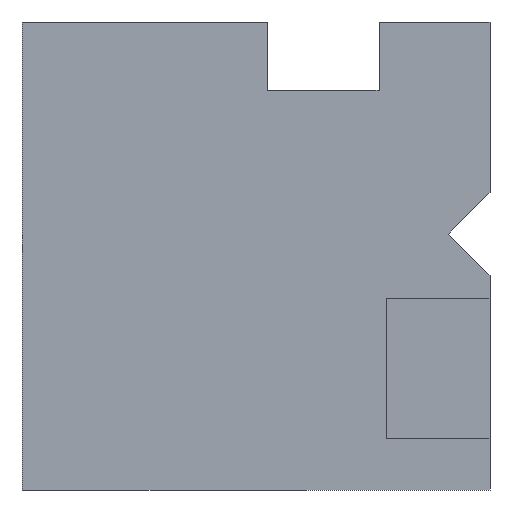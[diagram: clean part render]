
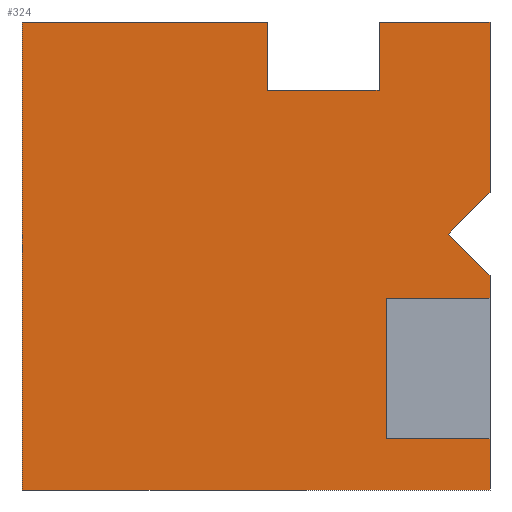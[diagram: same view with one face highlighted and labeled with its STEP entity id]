
A CAD part, left-side view. The second image highlights one B-rep face of the part: STEP entity #324.
In plain terms, the highlighted planar face has unit normal (-1, 0, 0).
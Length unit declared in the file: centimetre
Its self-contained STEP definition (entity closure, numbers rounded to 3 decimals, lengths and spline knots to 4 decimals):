
#5 = EDGE_CURVE ( 'NONE', #864, #48, #114, .T. ) ;
#26 = DIRECTION ( 'NONE',  ( 0., 0., -1. ) ) ;
#28 = EDGE_CURVE ( 'NONE', #608, #840, #179, .T. ) ;
#30 = VERTEX_POINT ( 'NONE', #670 ) ;
#31 = ORIENTED_EDGE ( 'NONE', *, *, #33, .F. ) ;
#33 = EDGE_CURVE ( 'NONE', #231, #445, #533, .T. ) ;
#40 = EDGE_CURVE ( 'NONE', #396, #225, #386, .T. ) ;
#45 = DIRECTION ( 'NONE',  ( 0., -1., 0. ) ) ;
#47 = EDGE_CURVE ( 'NONE', #118, #225, #307, .T. ) ;
#48 = VERTEX_POINT ( 'NONE', #660 ) ;
#55 = CARTESIAN_POINT ( 'NONE',  ( 0., 237.1589, 854.4618 ) ) ;
#57 = LINE ( 'NONE', #813, #618 ) ;
#74 = PLANE ( 'NONE',  #363 ) ;
#98 = ORIENTED_EDGE ( 'NONE', *, *, #468, .F. ) ;
#104 = CARTESIAN_POINT ( 'NONE',  ( 0., 475.2386, 854.4618 ) ) ;
#111 = ORIENTED_EDGE ( 'NONE', *, *, #833, .F. ) ;
#114 = LINE ( 'NONE', #599, #695 ) ;
#118 = VERTEX_POINT ( 'NONE', #194 ) ;
#129 = VECTOR ( 'NONE', #441, 100. ) ;
#131 = VECTOR ( 'NONE', #353, 100. ) ;
#135 = CARTESIAN_POINT ( 'NONE',  ( 0., 1000., 0. ) ) ;
#141 = CARTESIAN_POINT ( 'NONE',  ( 0., 0., 458.2742 ) ) ;
#142 = EDGE_CURVE ( 'NONE', #539, #48, #57, .T. ) ;
#145 = ORIENTED_EDGE ( 'NONE', *, *, #47, .T. ) ;
#164 = CARTESIAN_POINT ( 'NONE',  ( 0., 0., 1000. ) ) ;
#165 = LINE ( 'NONE', #779, #503 ) ;
#179 = LINE ( 'NONE', #443, #836 ) ;
#188 = CARTESIAN_POINT ( 'NONE',  ( 0., 0., 109.3846 ) ) ;
#194 = CARTESIAN_POINT ( 'NONE',  ( 0., 475.2386, 854.4618 ) ) ;
#225 = VERTEX_POINT ( 'NONE', #276 ) ;
#231 = VERTEX_POINT ( 'NONE', #877 ) ;
#241 = CARTESIAN_POINT ( 'NONE',  ( 0., 0., 1000. ) ) ;
#271 = VECTOR ( 'NONE', #623, 100. ) ;
#274 = EDGE_CURVE ( 'NONE', #360, #30, #343, .T. ) ;
#276 = CARTESIAN_POINT ( 'NONE',  ( 0., 475.2386, 1000. ) ) ;
#277 = VECTOR ( 'NONE', #759, 100. ) ;
#284 = CARTESIAN_POINT ( 'NONE',  ( 0., 0., 458.2742 ) ) ;
#294 = CARTESIAN_POINT ( 'NONE',  ( 0., 1000., 1000. ) ) ;
#297 = ORIENTED_EDGE ( 'NONE', *, *, #40, .F. ) ;
#298 = CARTESIAN_POINT ( 'NONE',  ( 0., 0., 635.6206 ) ) ;
#307 = LINE ( 'NONE', #104, #799 ) ;
#322 = CARTESIAN_POINT ( 'NONE',  ( 0., 1000., 1000. ) ) ;
#324 = ADVANCED_FACE ( 'NONE', ( #432 ), #74, .F. ) ;
#336 = EDGE_CURVE ( 'NONE', #30, #450, #638, .T. ) ;
#337 = VECTOR ( 'NONE', #45, 100. ) ;
#343 = LINE ( 'NONE', #141, #131 ) ;
#353 = DIRECTION ( 'NONE',  ( 0., 0.707, 0.707 ) ) ;
#360 = VERTEX_POINT ( 'NONE', #284 ) ;
#363 = AXIS2_PLACEMENT_3D ( 'NONE', #837, #487, #831 ) ;
#372 = ORIENTED_EDGE ( 'NONE', *, *, #529, .T. ) ;
#375 = CARTESIAN_POINT ( 'NONE',  ( 0., 0., 109.3846 ) ) ;
#385 = CARTESIAN_POINT ( 'NONE',  ( 0., 0., 409.365 ) ) ;
#386 = LINE ( 'NONE', #322, #337 ) ;
#387 = VERTEX_POINT ( 'NONE', #413 ) ;
#390 = DIRECTION ( 'NONE',  ( 0., 1., 0. ) ) ;
#396 = VERTEX_POINT ( 'NONE', #691 ) ;
#413 = CARTESIAN_POINT ( 'NONE',  ( 0., 220.5858, 109.3846 ) ) ;
#423 = EDGE_CURVE ( 'NONE', #360, #608, #860, .T. ) ;
#432 = FACE_OUTER_BOUND ( 'NONE', #726, .T. ) ;
#441 = DIRECTION ( 'NONE',  ( 0., 0., -1. ) ) ;
#442 = DIRECTION ( 'NONE',  ( 0., 1., 0. ) ) ;
#443 = CARTESIAN_POINT ( 'NONE',  ( 0., 0., 409.365 ) ) ;
#445 = VERTEX_POINT ( 'NONE', #588 ) ;
#449 = VECTOR ( 'NONE', #473, 100. ) ;
#450 = VERTEX_POINT ( 'NONE', #298 ) ;
#453 = VECTOR ( 'NONE', #868, 100. ) ;
#461 = EDGE_CURVE ( 'NONE', #396, #864, #575, .T. ) ;
#468 = EDGE_CURVE ( 'NONE', #445, #450, #784, .T. ) ;
#473 = DIRECTION ( 'NONE',  ( 0., -1., 0. ) ) ;
#487 = DIRECTION ( 'NONE',  ( 1., 0., 0. ) ) ;
#503 = VECTOR ( 'NONE', #442, 100. ) ;
#513 = DIRECTION ( 'NONE',  ( 0., -1., 0. ) ) ;
#520 = ORIENTED_EDGE ( 'NONE', *, *, #461, .T. ) ;
#521 = ORIENTED_EDGE ( 'NONE', *, *, #142, .F. ) ;
#524 = ORIENTED_EDGE ( 'NONE', *, *, #28, .F. ) ;
#529 = EDGE_CURVE ( 'NONE', #801, #118, #165, .T. ) ;
#533 = LINE ( 'NONE', #735, #453 ) ;
#539 = VERTEX_POINT ( 'NONE', #375 ) ;
#540 = ORIENTED_EDGE ( 'NONE', *, *, #686, .F. ) ;
#541 = LINE ( 'NONE', #188, #449 ) ;
#550 = DIRECTION ( 'NONE',  ( 0., 0., -1. ) ) ;
#555 = LINE ( 'NONE', #559, #277 ) ;
#559 = CARTESIAN_POINT ( 'NONE',  ( 0., 220.5858, 109.3846 ) ) ;
#575 = LINE ( 'NONE', #294, #824 ) ;
#588 = CARTESIAN_POINT ( 'NONE',  ( 0., 0., 1000. ) ) ;
#599 = CARTESIAN_POINT ( 'NONE',  ( 0., 1000., 0. ) ) ;
#601 = ORIENTED_EDGE ( 'NONE', *, *, #762, .T. ) ;
#608 = VERTEX_POINT ( 'NONE', #385 ) ;
#612 = CARTESIAN_POINT ( 'NONE',  ( 0., 237.1589, 854.4618 ) ) ;
#618 = VECTOR ( 'NONE', #882, 100. ) ;
#623 = DIRECTION ( 'NONE',  ( 0., -0.707, 0.707 ) ) ;
#638 = LINE ( 'NONE', #773, #271 ) ;
#651 = ORIENTED_EDGE ( 'NONE', *, *, #274, .T. ) ;
#660 = CARTESIAN_POINT ( 'NONE',  ( 0., 0., 0. ) ) ;
#670 = CARTESIAN_POINT ( 'NONE',  ( 0., 88.6732, 546.9474 ) ) ;
#686 = EDGE_CURVE ( 'NONE', #387, #539, #541, .T. ) ;
#691 = CARTESIAN_POINT ( 'NONE',  ( 0., 1000., 1000. ) ) ;
#695 = VECTOR ( 'NONE', #513, 100. ) ;
#719 = ORIENTED_EDGE ( 'NONE', *, *, #423, .F. ) ;
#721 = VECTOR ( 'NONE', #550, 100. ) ;
#726 = EDGE_LOOP ( 'NONE', ( #521, #540, #111, #524, #719, #651, #741, #98, #31, #601, #372, #145, #297, #520, #736 ) ) ;
#731 = DIRECTION ( 'NONE',  ( 0., 0., 1. ) ) ;
#735 = CARTESIAN_POINT ( 'NONE',  ( 0., 1000., 1000. ) ) ;
#736 = ORIENTED_EDGE ( 'NONE', *, *, #5, .T. ) ;
#741 = ORIENTED_EDGE ( 'NONE', *, *, #336, .T. ) ;
#759 = DIRECTION ( 'NONE',  ( 0., 0., -1. ) ) ;
#762 = EDGE_CURVE ( 'NONE', #231, #801, #880, .T. ) ;
#766 = VECTOR ( 'NONE', #26, 100. ) ;
#773 = CARTESIAN_POINT ( 'NONE',  ( 0., 88.6732, 546.9474 ) ) ;
#779 = CARTESIAN_POINT ( 'NONE',  ( 0., 237.1589, 854.4618 ) ) ;
#784 = LINE ( 'NONE', #164, #129 ) ;
#799 = VECTOR ( 'NONE', #731, 100. ) ;
#801 = VERTEX_POINT ( 'NONE', #612 ) ;
#813 = CARTESIAN_POINT ( 'NONE',  ( 0., 0., 1000. ) ) ;
#824 = VECTOR ( 'NONE', #854, 100. ) ;
#826 = CARTESIAN_POINT ( 'NONE',  ( 0., 220.5858, 409.365 ) ) ;
#831 = DIRECTION ( 'NONE',  ( 0., 0., -1. ) ) ;
#833 = EDGE_CURVE ( 'NONE', #840, #387, #555, .T. ) ;
#836 = VECTOR ( 'NONE', #390, 100. ) ;
#837 = CARTESIAN_POINT ( 'NONE',  ( 0., 1000., 1000. ) ) ;
#840 = VERTEX_POINT ( 'NONE', #826 ) ;
#854 = DIRECTION ( 'NONE',  ( 0., 0., -1. ) ) ;
#860 = LINE ( 'NONE', #241, #766 ) ;
#864 = VERTEX_POINT ( 'NONE', #135 ) ;
#868 = DIRECTION ( 'NONE',  ( 0., -1., 0. ) ) ;
#877 = CARTESIAN_POINT ( 'NONE',  ( 0., 237.1589, 1000. ) ) ;
#880 = LINE ( 'NONE', #55, #721 ) ;
#882 = DIRECTION ( 'NONE',  ( 0., 0., -1. ) ) ;
